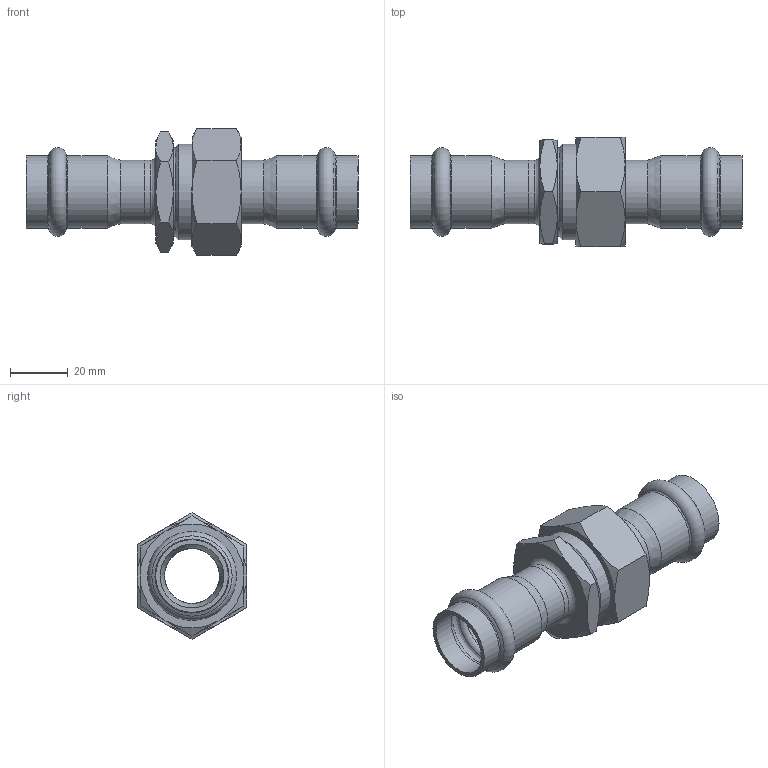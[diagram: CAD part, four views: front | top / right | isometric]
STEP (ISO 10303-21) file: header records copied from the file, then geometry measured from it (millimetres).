
FILE_DESCRIPTION((''),'2;1');
FILE_NAME('G:\Nirosan-Schmiedefeld\Technics\CAD\Bauteile VA\022\6933022(2).stp','2011-06-29T07:45:59',('herberg'),(''),'Autodesk Inventor 2009','Autodesk Inventor 2009','');
FILE_SCHEMA(('AUTOMOTIVE_DESIGN { 1 0 10303 214 1 1 1 1 }'));
Length unit declared in the file: millimetre
Products named in the file (9): 6933022(2); 69359AG221(0); 6924322HM(1); 359AG221(2); 69359m221(2); HM_6924322(1); R221(0); SM221(4); FD_3021_EPDM(0)
Assembly tree (8 placements, depth 3):
  6933022(2)
    69359AG221(0)
      6924322HM(1)
      359AG221(2)
    69359m221(2)
      HM_6924322(1)
      R221(0)
      SM221(4)
      FD_3021_EPDM(0)
Bounding box: 115 x 38 x 43.88 mm (x, y, z)
Volume: 32834.4 mm3; surface area: 26907 mm2
Topology: 6 solids, 6 shells, 103 faces, 202 edges, 115 vertices
Faces by surface type: cone 37, plane 27, cylinder 21, bspline 11, torus 7
Full cylindrical faces by diameter (mm): 19 x4, 21 x1, 22 x4, 22.15 x4, 23 x1, 25.15 x4, 29 x1, 30 x1, 33.249 x1
Entity records: 2982 total; most frequent: CARTESIAN_POINT 939, DIRECTION 408, ORIENTED_EDGE 298, AXIS2_PLACEMENT_3D 198, EDGE_LOOP 170, EDGE_CURVE 149, VERTEX_POINT 113, FACE_OUTER_BOUND 103
